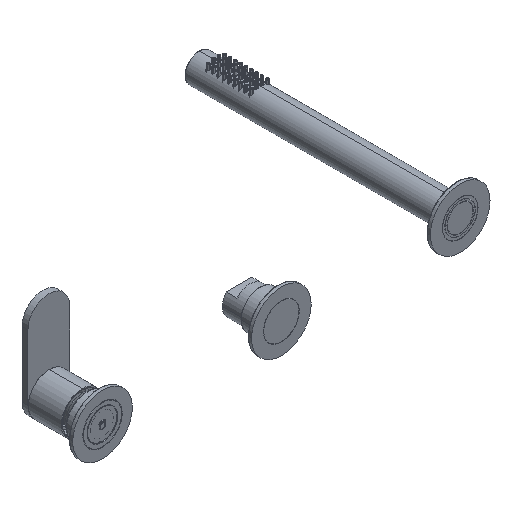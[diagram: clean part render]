
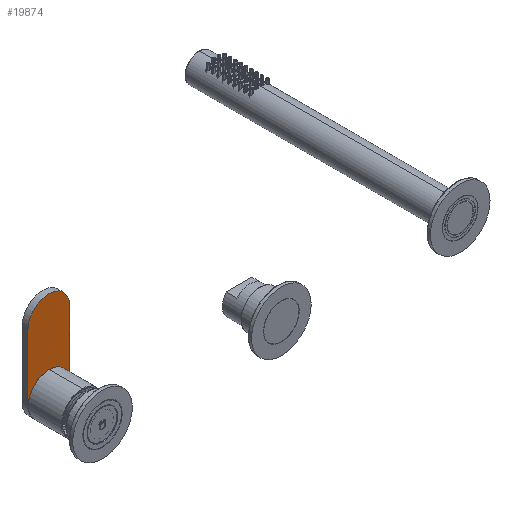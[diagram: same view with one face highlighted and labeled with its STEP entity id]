
A CAD part, isometric view. The second image highlights one B-rep face of the part: STEP entity #19874.
In plain terms, the highlighted planar face has unit normal (0, -1, 0).
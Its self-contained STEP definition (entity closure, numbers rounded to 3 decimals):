
#18418=CARTESIAN_POINT('',(0.,45.039,
0.009));
#18419=DIRECTION('',(0.,-1.,0.));
#18420=DIRECTION('',(0.,0.,-1.));
#18421=AXIS2_PLACEMENT_3D('',#18418,#18419,#18420);
#18427=CARTESIAN_POINT('',(0.,45.039,0.009));
#18428=DIRECTION('',(0.,1.,0.));
#18429=DIRECTION('',(1.,0.,0.));
#18430=AXIS2_PLACEMENT_3D('',#18427,#18428,#18429);
#18432=DIRECTION('',(0.,0.,1.));
#18433=VECTOR('',#18432,55.);
#18434=CARTESIAN_POINT('',(-17.5,45.039,0.009));
#18435=LINE('',#18434,#18433);
#18436=CARTESIAN_POINT('',(0.,45.039,55.009));
#18437=DIRECTION('',(0.,1.,0.));
#18438=DIRECTION('',(-1.,0.,0.));
#18439=AXIS2_PLACEMENT_3D('',#18436,#18437,#18438);
#18441=DIRECTION('',(0.,0.,-1.));
#18442=VECTOR('',#18441,55.);
#18443=CARTESIAN_POINT('',(17.5,45.039,55.009));
#18444=LINE('',#18443,#18442);
#18479=CARTESIAN_POINT('',(0.,45.039,0.009));
#18480=DIRECTION('',(0.,-1.,0.));
#18481=DIRECTION('',(0.,0.,1.));
#18482=AXIS2_PLACEMENT_3D('',#18479,#18480,#18481);
#18570=CARTESIAN_POINT('',(17.5,45.039,0.009));
#18571=CARTESIAN_POINT('',(-17.5,45.039,0.009));
#18572=VERTEX_POINT('',#18570);
#18573=VERTEX_POINT('',#18571);
#18574=CARTESIAN_POINT('',(-17.5,45.039,55.009));
#18575=VERTEX_POINT('',#18574);
#18576=CARTESIAN_POINT('',(17.5,45.039,55.009));
#18577=VERTEX_POINT('',#18576);
#18622=CARTESIAN_POINT('',(0.,45.039,
17.209));
#18623=CARTESIAN_POINT('',(0.,45.039,
-17.191));
#18624=VERTEX_POINT('',#18622);
#18625=VERTEX_POINT('',#18623);
#19854=CARTESIAN_POINT('',(0.,45.039,0.009));
#19855=DIRECTION('',(0.,1.,0.));
#19856=DIRECTION('',(0.,0.,1.));
#19857=AXIS2_PLACEMENT_3D('',#19854,#19855,#19856);
#19858=PLANE('',#19857);
#19860=ORIENTED_EDGE('',*,*,#19859,.T.);
#19862=ORIENTED_EDGE('',*,*,#19861,.T.);
#19864=ORIENTED_EDGE('',*,*,#19863,.T.);
#19866=ORIENTED_EDGE('',*,*,#19865,.T.);
#19867=EDGE_LOOP('',(#19860,#19862,#19864,#19866));
#19868=FACE_OUTER_BOUND('',#19867,.F.);
#19870=ORIENTED_EDGE('',*,*,#19869,.T.);
#19871=ORIENTED_EDGE('',*,*,#19844,.T.);
#19872=EDGE_LOOP('',(#19870,#19871));
#19873=FACE_BOUND('',#19872,.F.);
#19874=ADVANCED_FACE('',(#19868,#19873),#19858,.F.);
#18422=CIRCLE('',#18421,17.2);
#18431=CIRCLE('',#18430,17.5);
#18440=CIRCLE('',#18439,17.5);
#18483=CIRCLE('',#18482,17.2);
#19844=EDGE_CURVE('',#18625,#18624,#18422,.T.);
#19859=EDGE_CURVE('',#18572,#18573,#18431,.T.);
#19861=EDGE_CURVE('',#18573,#18575,#18435,.T.);
#19863=EDGE_CURVE('',#18575,#18577,#18440,.T.);
#19865=EDGE_CURVE('',#18577,#18572,#18444,.T.);
#19869=EDGE_CURVE('',#18624,#18625,#18483,.T.);
